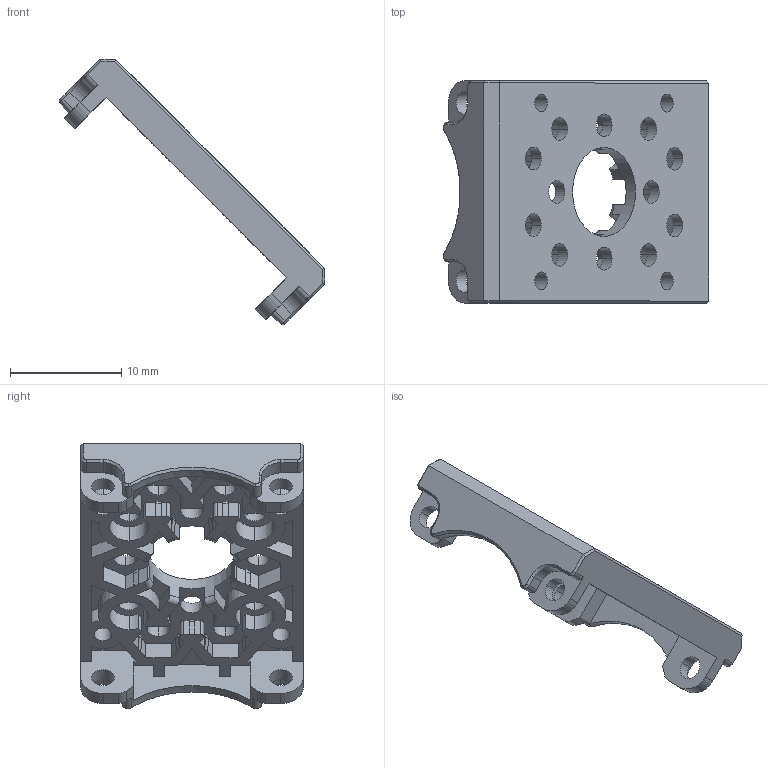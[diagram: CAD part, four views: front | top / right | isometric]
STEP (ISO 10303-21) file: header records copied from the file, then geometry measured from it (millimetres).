
FILE_DESCRIPTION (( 'STEP AP214' ), '1' );
FILE_NAME ('thumb_1.STEP', '2026-09-17T12:54:37', ( '' ), ( '' ), 'SwSTEP 2.0', 'SolidWorks 2024', '' );
FILE_SCHEMA (( 'AUTOMOTIVE_DESIGN' ));
Length unit declared in the file: millimetre
Products named in the file (2): thumb_1; fpx330-s101_默认
Assembly tree (1 placements, depth 2):
  thumb_1
    fpx330-s101_默认
Bounding box: 23.86 x 20 x 23.86 mm (x, y, z)
Volume: 1208.5 mm3; surface area: 2187.5 mm2
Topology: 1 solids, 1 shells, 426 faces, 1180 edges, 760 vertices
Faces by surface type: plane 298, cylinder 102, cone 18, torus 8
Entity records: 13681 total; most frequent: CARTESIAN_POINT 2474, ORIENTED_EDGE 2360, DIRECTION 2290, EDGE_CURVE 1180, VECTOR 898, LINE 898, VERTEX_POINT 760, AXIS2_PLACEMENT_3D 696
